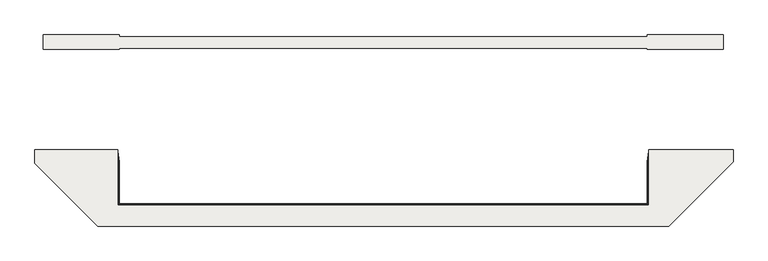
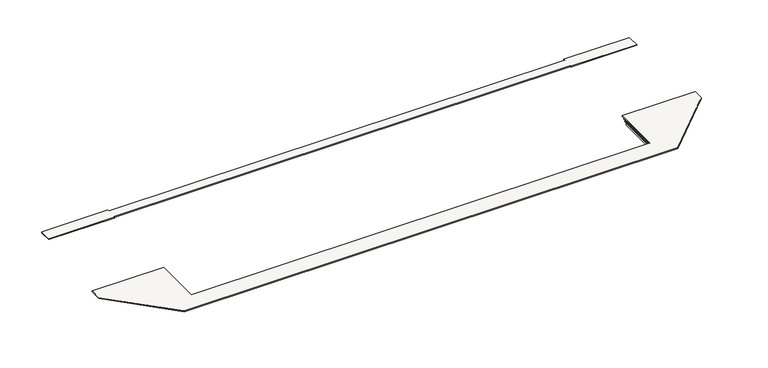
"""IFC4 building model written with IfcOpenShell, lengths in millimetres: slab geometry, かごマット : かごマット."""

from ifc_helpers import new_model, si_unit, frame, origin, place, context, project, spatial, polyline, outline, extrude, source, transform, mapped, element, save


def slab_a15bf82b(model_context):
    return source(origin(), model_context, "Body", "SweptSolid", [
        extrude(outline(polyline([(-168458.0, 35864.6035583), (-128458.0, 35864.6035583), (-128458.0, 34952.0), (148750.0, 34952.0), (148750.0, 35864.6035583), (188750.0, 35864.6035583), (188750.0, 28452.0), (148750.0, 28452.0), (148750.0, 28952.0), (-128458.0, 28952.0), (-128458.0, 28452.0), (-168458.0, 28452.0), (-168458.0, 35864.6035583)])), frame((0.0, 0.0, 7700.0), z_axis=(0.0, 0.0, 1.0), x_axis=(1.0, 0.0, 0.0)), (0.0, 0.0, 1.0), 500.0),
        extrude(outline(polyline([(-129458.0, -29881.3), (-128458.0, -29881.3), (-128458.0, -52750.0), (148750.0, -52750.0), (148750.0, -29881.3), (149750.0, -29881.3), (149750.0, -53750.0), (-129458.0, -53750.0), (-129458.0, -29881.3)])), frame((0.0, 0.0, 5700.0), z_axis=(0.0, 0.0, 1.0), x_axis=(1.0, 0.0, 0.0)), (0.0, 0.0, 1.0), 1000.0),
        extrude(outline(polyline([(-129708.0, -28081.3), (-128708.0, -28081.3), (-128708.0, -53000.0), (149000.0, -53000.0), (149000.0, -28081.3), (150000.0, -28081.3), (150000.0, -54000.0), (-129708.0, -54000.0), (-129708.0, -28081.3)])), frame((0.0, 0.0, 6700.0), z_axis=(0.0, 0.0, 1.0), x_axis=(1.0, 0.0, 0.0)), (0.0, 0.0, 1.0), 500.0),
        extrude(outline(polyline([(-128958.0, -26281.3), (-128958.0, -53250.0), (149250.0, -53250.0), (149250.0, -26281.3), (150000.0, -26281.3), (150000.0, -54250.0), (-129958.0, -54250.0), (-129958.0, -26281.3), (-128958.0, -26281.3)])), frame((0.0, 0.0, 7200.0), z_axis=(0.0, 0.0, 1.0), x_axis=(1.0, 0.0, 0.0)), (0.0, 0.0, 1.0), 500.0),
        extrude(outline(polyline([(-172729.7969424, -31615.2693616), (-172729.7969424, -24481.3), (-129208.0, -24481.3), (-129208.0, -53500.0), (149500.0, -53500.0), (149500.0, -24481.3), (193806.5236164, -24481.3), (193806.5236164, -30836.7537445), (160149.2772356, -64494.0), (-139851.066304, -64494.0), (-172729.7969424, -31615.2693616)])), frame((0.0, 0.0, 7700.0), z_axis=(0.0, 0.0, 1.0), x_axis=(1.0, 0.0, 0.0)), (0.0, 0.0, 1.0), 500.0),
    ])


if __name__ == "__main__":
    model = new_model("IFC4")
    model_context = context("Model", 3, world=origin())
    ifc_project = project(units=[si_unit("LENGTHUNIT", "METRE", prefix="MILLI")], contexts=[model_context])
    site = spatial("IfcSite", under=ifc_project)
    building = spatial("IfcBuilding", under=site)
    placement = place(None, origin())
    slab_shape = slab_a15bf82b(model_context)
    element("IfcSlab", 1, ObjectType="かごマット : かごマット", at=placement, inside=building, context=model_context, shape_type="MappedRepresentation", body=[
        mapped(slab_shape, transform((0.0, 0.0, 0.0), x_axis=(1.0, 0.0, 0.0), y_axis=(0.0, 1.0, 0.0), z_axis=(0.0, 0.0, 1.0))),
    ])
    save(model, "model.ifc")
